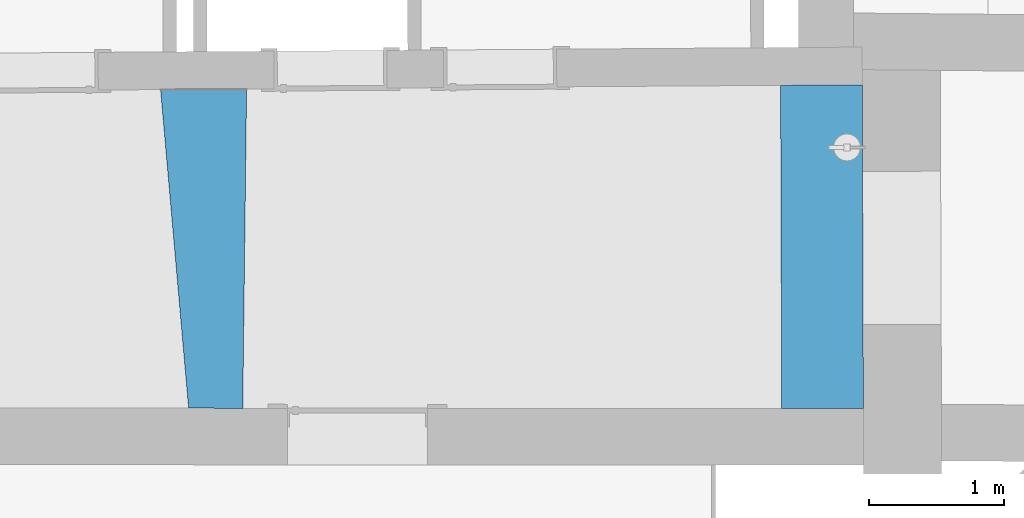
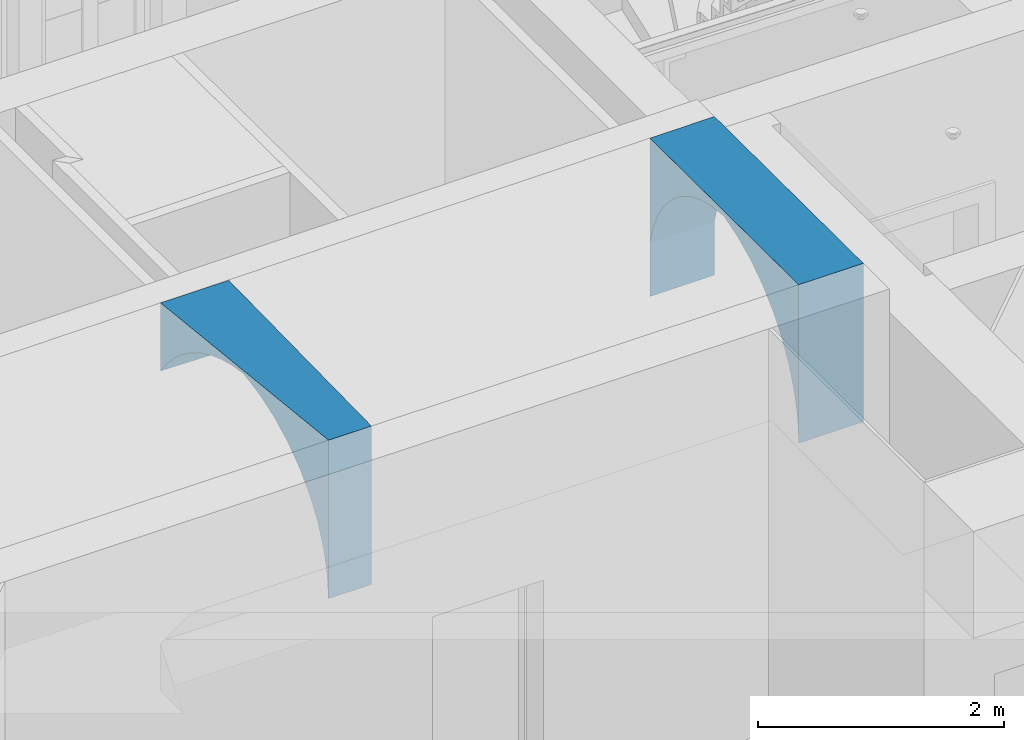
# One storey, part 43 of 90: 2 slabs.
"""IFC2X3 building model written with IfcOpenShell, lengths in metres."""

from ifc_helpers import new_model, entity, si_unit, converted_unit, derived_unit, money_unit, direction, frame, origin_with_axes, place, context, subcontext, project, spatial, polyline, outline, extrude, boolean, faceted_brep, material, layer, layer_set, layer_usage, type_object, element, save


model = new_model("IFC2X3")

# Units and contexts
model_context = context("Model", 3, precision=1e-05, world=origin_with_axes(), true_north=direction((0.0, 1.0)))
body_context = subcontext(model_context, "Body", "Model", "MODEL_VIEW")
ifc_project = project(units=[si_unit("LENGTHUNIT", "METRE"), si_unit("AREAUNIT", "SQUARE_METRE"), si_unit("VOLUMEUNIT", "CUBIC_METRE"), converted_unit("PLANEANGLEUNIT", "DEGREE", entity("IfcPlaneAngleMeasure", 0.0174532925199), si_unit("PLANEANGLEUNIT", "RADIAN"), dimensions=[0, 0, 0, 0, 0, 0, 0]), money_unit("EUR"), converted_unit("TIMEUNIT", "Year", entity("IfcTimeMeasure", 31556926.0), si_unit("TIMEUNIT", "SECOND"), dimensions=[0, 0, 1, 0, 0, 0, 0]), si_unit("MASSUNIT", "GRAM", prefix="KILO"), si_unit("THERMODYNAMICTEMPERATUREUNIT", "DEGREE_CELSIUS"), si_unit("LUMINOUSINTENSITYUNIT", "LUMEN"), si_unit("ENERGYUNIT", "JOULE", prefix="MEGA"), derived_unit("THERMALCONDUCTANCEUNIT", [(si_unit("POWERUNIT", "WATT"), 1), (si_unit("LENGTHUNIT", "METRE"), -1), (si_unit("THERMODYNAMICTEMPERATUREUNIT", "KELVIN"), -1)]), derived_unit("SPECIFICHEATCAPACITYUNIT", [(si_unit("ENERGYUNIT", "JOULE"), 1), (si_unit("MASSUNIT", "GRAM", prefix="KILO"), -1), (si_unit("THERMODYNAMICTEMPERATUREUNIT", "KELVIN"), -1)]), derived_unit("MASSDENSITYUNIT", [(si_unit("MASSUNIT", "GRAM", prefix="KILO"), 1), (si_unit("VOLUMEUNIT", "CUBIC_METRE"), -1)])], contexts=[model_context])

# Site, building, storey
site_placement = place(None, origin_with_axes())
site = spatial("IfcSite", under=ifc_project, at=site_placement, Name="Gelände", CompositionType="ELEMENT")
building_placement = place(site_placement, origin_with_axes())
building = spatial("IfcBuilding", under=site, at=building_placement, Name="Gebäude", CompositionType="ELEMENT")
storey_placement = place(building_placement, frame((0.0, 0.0, 3.7), z_axis=(0.0, 0.0, 1.0), x_axis=(1.0, 0.0, 0.0)))
storey = spatial("IfcBuildingStorey", under=building, at=storey_placement, Name="1.OBERGESCHOSS", CompositionType="ELEMENT", Elevation=3.7)

# Slabs
ifc_material = material(Name="05_ALLGEMEIN - TRAGENDE BAUTEILE")
ifc_layer = layer(ifc_material, 1.57184386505, ventilated="UNKNOWN")
ifc_layer_set = layer_set([ifc_layer], Name="05_ALLGEMEIN - TRAGENDE BAUTEILE 1.57184")
ifc_layer_usage_1 = layer_usage(ifc_layer_set, "AXIS3", "NEGATIVE", 1.57184386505)
slab_type = type_object("IfcSlabType", Name="05_ALLGEMEIN - TRAGENDE BAUTEILE 1572", PredefinedType="NOTDEFINED")
slab_1_placement = place(storey_placement, frame((21.3517273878, 19.2143439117, 2.52815613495), z_axis=(0.0, 0.0, 1.0), x_axis=(1.0, 0.0, 0.0)))
element("IfcSlab", 1, at=slab_1_placement, inside=storey, type_object=slab_type, material=ifc_layer_usage_1, Name="Belag-017", PredefinedType="NOTDEFINED", context=body_context, shape_type="CSG", body=[
    boolean("DIFFERENCE", extrude(outline(polyline([(0.0, 0.0), (0.00833416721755, -2.40220713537), (0.615871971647, -2.40252200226), (0.607522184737, 0.004187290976), (0.0, 0.0)])), origin_with_axes(), (0.0, 0.0, 1.0), 1.57184386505), faceted_brep([(0.615333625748, -2.24735132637, 0.673215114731), (0.615625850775, -2.33158110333, 0.457243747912), (0.615803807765, -2.38287471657, 0.231174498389), (0.615863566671, -2.40009938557, -6.59879191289e-08), (0.607529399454, 0.00210774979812, 0.0), (0.607529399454, 0.00210774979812, 0.528724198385), (0.607702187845, -0.047696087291, 0.70917562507), (0.607968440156, -0.124439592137, 0.879919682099), (0.608321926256, -0.226327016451, 1.03696106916), (0.608754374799, -0.350974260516, 1.17662511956), (0.609255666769, -0.495464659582, 1.29564378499), (0.609814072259, -0.656417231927, 1.3912321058), (0.610416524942, -0.830065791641, 1.46115337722), (0.611048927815, -1.01234707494, 1.5037714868), (0.611696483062, -1.19899581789, 1.51808919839), (0.612463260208, -1.42000860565, 1.44815257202), (0.613185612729, -1.62821661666, 1.3462345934), (0.613847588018, -1.81902173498, 1.21458604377), (0.614434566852, -1.98821017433, 1.05611428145), (0.61493358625, -2.13204553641, 0.874319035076), (0.00780422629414, -2.24945907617, 0.673215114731), (0.00809645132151, -2.33368885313, 0.457243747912), (0.00827440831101, -2.38498246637, 0.231174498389), (0.00833416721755, -2.40220713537, -6.59879191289e-08), (0.0, 0.0, 0.0), (0.0, 0.0, 0.528724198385), (0.000172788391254, -0.0498038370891, 0.70917562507), (0.000439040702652, -0.126547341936, 0.879919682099), (0.000792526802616, -0.228434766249, 1.03696106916), (0.00122497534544, -0.353082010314, 1.17662511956), (0.0017262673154, -0.49757240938, 1.29564378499), (0.0022846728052, -0.658524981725, 1.3912321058), (0.00288712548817, -0.83217354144, 1.46115337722), (0.00351952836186, -1.01445482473, 1.5037714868), (0.00416708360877, -1.20110356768, 1.51808919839), (0.00493386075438, -1.42211635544, 1.44815257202), (0.00565621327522, -1.63032436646, 1.3462345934), (0.00631818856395, -1.82112948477, 1.21458604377), (0.00690516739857, -1.99031792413, 1.05611428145), (0.0074041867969, -2.13415328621, 0.874319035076)], [[[0, 1, 2, 3, 4, 5, 6, 7, 8, 9, 10, 11, 12, 13, 14, 15, 16, 17, 18, 19]], [[1, 0, 20, 21]], [[2, 1, 21, 22]], [[3, 2, 22, 23]], [[24, 4, 3, 23]], [[5, 4, 24, 25]], [[6, 5, 25, 26]], [[7, 6, 26, 27]], [[8, 7, 27, 28]], [[9, 8, 28, 29]], [[10, 9, 29, 30]], [[11, 10, 30, 31]], [[12, 11, 31, 32]], [[13, 12, 32, 33]], [[14, 13, 33, 34]], [[15, 14, 34, 35]], [[16, 15, 35, 36]], [[17, 16, 36, 37]], [[18, 17, 37, 38]], [[19, 18, 38, 39]], [[0, 19, 39, 20]], [[25, 24, 23, 22, 21, 20, 39, 38, 37, 36, 35, 34, 33, 32, 31, 30, 29, 28, 27, 26]]])),
])
ifc_layer_usage_2 = layer_usage(ifc_layer_set, "AXIS3", "NEGATIVE", 1.57184386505)
slab_2_placement = place(storey_placement, frame((16.7438268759, 19.1825843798, 2.52815613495), z_axis=(0.0, 0.0, 1.0), x_axis=(1.0, 0.0, 0.0)))
element("IfcSlab", 2, at=slab_2_placement, inside=storey, type_object=slab_type, material=ifc_layer_usage_2, Name="Belag-017", PredefinedType="NOTDEFINED", context=body_context, shape_type="CSG", body=[
    boolean("DIFFERENCE", extrude(outline(polyline([(0.0, 0.0), (0.208463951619, -2.36816320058), (0.610823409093, -2.36837173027), (0.639348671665, -0.00100308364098), (0.0, 0.0)])), origin_with_axes(), (0.0, 0.0, 1.0), 1.57184386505), faceted_brep([(0.0, 0.0, 0.894621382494), (0.639348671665, -0.00100308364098, 0.885030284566), (0.639348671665, -0.00100308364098, 0.0), (0.0, 0.0, 0.0), (0.638326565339, -0.0858297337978, 1.0064660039), (0.00688563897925, -0.0782212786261, 1.0064660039), (0.611027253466, -2.35145427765, 0.231438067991), (0.610823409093, -2.36837173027, 0.0), (0.637070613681, -0.190063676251, 1.12464072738), (0.635662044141, -0.306963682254, 1.23030030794), (0.634118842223, -0.435037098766, 1.32209560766), (0.632460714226, -0.572648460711, 1.39885443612), (0.630708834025, -0.718040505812, 1.45959660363), (0.628885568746, -0.869356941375, 1.50354657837), (0.627175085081, -1.01131340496, 1.52785653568), (0.627014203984, -1.02466524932, 1.53014302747), (0.625118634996, -1.18198231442, 1.53904641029), (0.622473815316, -1.40148119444, 1.46379288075), (0.619988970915, -1.60770340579, 1.35741585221), (0.617716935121, -1.79626420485, 1.22217713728), (0.615706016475, -1.96315436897, 1.0609522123), (0.613998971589, -2.10482544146, 0.87716907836), (0.612632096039, -2.21826517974, 0.674735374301), (0.611869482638, -2.28155599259, 0.50902547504), (0.611634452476, -2.30106161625, 0.45795522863), (0.611082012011, -2.34690975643, 0.251865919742), (0.208055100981, -2.3635186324, 0.0), (0.206564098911, -2.34658075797, 0.231438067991), (0.206163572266, -2.34203075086, 0.251865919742), (0.202122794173, -2.29612726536, 0.45795522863), (0.200403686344, -2.27659809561, 0.50902547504), (0.194825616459, -2.21323088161, 0.674735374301), (0.184827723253, -2.09965420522, 0.87716907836), (0.172341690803, -1.95781211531, 1.0609522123), (0.157632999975, -1.7907204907, 1.22217713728), (0.141014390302, -1.60193207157, 1.35741585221), (0.122839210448, -1.39546092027, 1.46379288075), (0.103493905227, -1.17569707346, 1.53904641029), (0.0896289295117, -1.01819010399, 1.53014302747), (0.0884521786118, -1.00482214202, 1.52785653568), (0.0759409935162, -0.862694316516, 1.50354657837), (0.0626048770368, -0.711195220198, 1.45959660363), (0.0497909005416, -0.565627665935, 1.39885443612), (0.037662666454, -0.427850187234, 1.32209560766), (0.0263750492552, -0.299622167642, 1.23030030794), (0.0160721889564, -0.182581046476, 1.12464072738)], [[[0, 1, 2, 3]], [[4, 1, 0, 5]], [[6, 7, 2, 1, 4, 8, 9, 10, 11, 12, 13, 14, 15, 16, 17, 18, 19, 20, 21, 22, 23, 24, 25]], [[7, 26, 3, 2]], [[5, 0, 3, 26, 27, 28, 29, 30, 31, 32, 33, 34, 35, 36, 37, 38, 39, 40, 41, 42, 43, 44, 45]], [[8, 4, 5, 45]], [[7, 6, 27, 26]], [[9, 8, 45, 44]], [[10, 9, 44, 43]], [[11, 10, 43, 42]], [[12, 11, 42, 41]], [[13, 12, 41, 40]], [[14, 13, 40, 39]], [[15, 14, 39, 38]], [[16, 15, 38, 37]], [[17, 16, 37, 36]], [[18, 17, 36, 35]], [[19, 18, 35, 34]], [[20, 19, 34, 33]], [[21, 20, 33, 32]], [[22, 21, 32, 31]], [[23, 22, 31, 30]], [[24, 23, 30, 29]], [[25, 24, 29, 28]], [[6, 25, 28, 27]]])),
])

save(model, "model.ifc")
